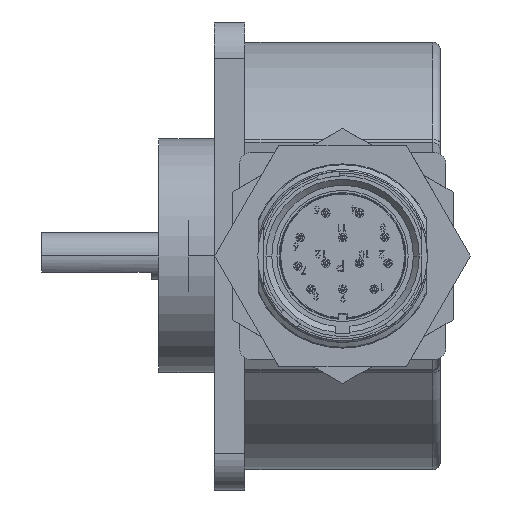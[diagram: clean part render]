
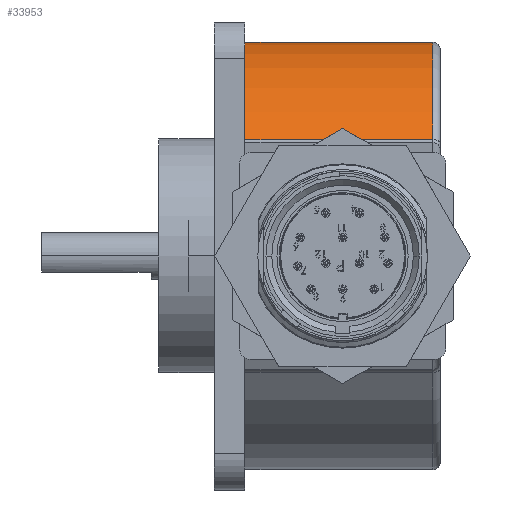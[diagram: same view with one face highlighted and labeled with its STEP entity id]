
A CAD part, front view. The second image highlights one B-rep face of the part: STEP entity #33953.
In plain terms, the highlighted cylindrical face has radius 29 mm (diameter 58 mm), a partial arc.
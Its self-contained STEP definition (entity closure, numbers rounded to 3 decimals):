
#364 = AXIS2_PLACEMENT_3D ( 'NONE', #24541, #43180, #1245 ) ;
#1245 = DIRECTION ( 'NONE',  ( 0., 0., -1. ) ) ;
#3615 = EDGE_CURVE ( 'NONE', #50235, #18281, #15595, .T. ) ;
#4218 = EDGE_CURVE ( 'NONE', #50235, #36724, #50963, .T. ) ;
#4775 = AXIS2_PLACEMENT_3D ( 'NONE', #40181, #7437, #35929 ) ;
#5835 = CYLINDRICAL_SURFACE ( 'NONE', #364, 29. ) ;
#7437 = DIRECTION ( 'NONE',  ( -1., 0., 0. ) ) ;
#8731 = ORIENTED_EDGE ( 'NONE', *, *, #3615, .F. ) ;
#9859 = ORIENTED_EDGE ( 'NONE', *, *, #36767, .T. ) ;
#11577 = EDGE_CURVE ( 'NONE', #36724, #51497, #26157, .T. ) ;
#11624 = EDGE_LOOP ( 'NONE', ( #17945, #9859, #8731, #29745 ) ) ;
#12250 = CARTESIAN_POINT ( 'NONE',  ( 33.568, 1.11, 15.807 ) ) ;
#12859 = CARTESIAN_POINT ( 'NONE',  ( 8.068, 25.423, 29. ) ) ;
#14062 = LINE ( 'NONE', #12859, #30843 ) ;
#14690 = CARTESIAN_POINT ( 'NONE',  ( 8.068, 1.11, 15.807 ) ) ;
#15595 = CIRCLE ( 'NONE', #4775, 29. ) ;
#17945 = ORIENTED_EDGE ( 'NONE', *, *, #11577, .T. ) ;
#18281 = VERTEX_POINT ( 'NONE', #36200 ) ;
#19294 = AXIS2_PLACEMENT_3D ( 'NONE', #27210, #50481, #54467 ) ;
#24541 = CARTESIAN_POINT ( 'NONE',  ( 8.068, 25.423, 0. ) ) ;
#26157 = CIRCLE ( 'NONE', #19294, 29. ) ;
#27103 = CARTESIAN_POINT ( 'NONE',  ( 8.068, 1.11, 15.807 ) ) ;
#27210 = CARTESIAN_POINT ( 'NONE',  ( 33.568, 25.423, 0. ) ) ;
#27508 = DIRECTION ( 'NONE',  ( -1., 0., 0. ) ) ;
#29745 = ORIENTED_EDGE ( 'NONE', *, *, #4218, .T. ) ;
#30843 = VECTOR ( 'NONE', #27508, 1000. ) ;
#33953 = ADVANCED_FACE ( 'NONE', ( #47761 ), #5835, .T. ) ;
#35929 = DIRECTION ( 'NONE',  ( 0., 0., -1. ) ) ;
#36200 = CARTESIAN_POINT ( 'NONE',  ( 8.068, 25.423, 29. ) ) ;
#36724 = VERTEX_POINT ( 'NONE', #12250 ) ;
#36767 = EDGE_CURVE ( 'NONE', #51497, #18281, #14062, .T. ) ;
#40181 = CARTESIAN_POINT ( 'NONE',  ( 8.068, 25.423, 0. ) ) ;
#41004 = VECTOR ( 'NONE', #59555, 1000. ) ;
#43180 = DIRECTION ( 'NONE',  ( -1., 0., 0. ) ) ;
#47761 = FACE_OUTER_BOUND ( 'NONE', #11624, .T. ) ;
#50235 = VERTEX_POINT ( 'NONE', #14690 ) ;
#50481 = DIRECTION ( 'NONE',  ( -1., 0., 0. ) ) ;
#50963 = LINE ( 'NONE', #27103, #41004 ) ;
#51497 = VERTEX_POINT ( 'NONE', #54065 ) ;
#54065 = CARTESIAN_POINT ( 'NONE',  ( 33.568, 25.423, 29. ) ) ;
#54467 = DIRECTION ( 'NONE',  ( 0., 0., -1. ) ) ;
#59555 = DIRECTION ( 'NONE',  ( 1., 0., 0. ) ) ;
